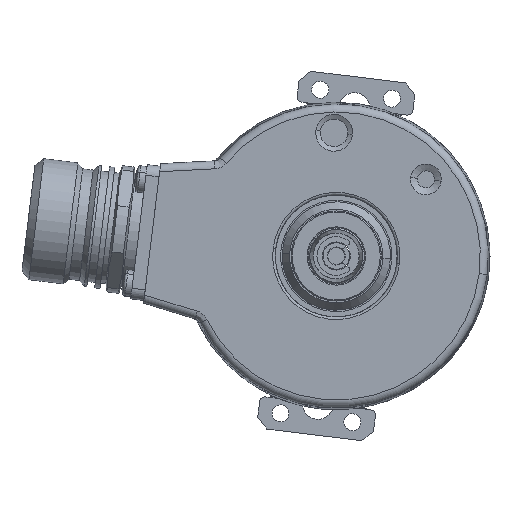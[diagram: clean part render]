
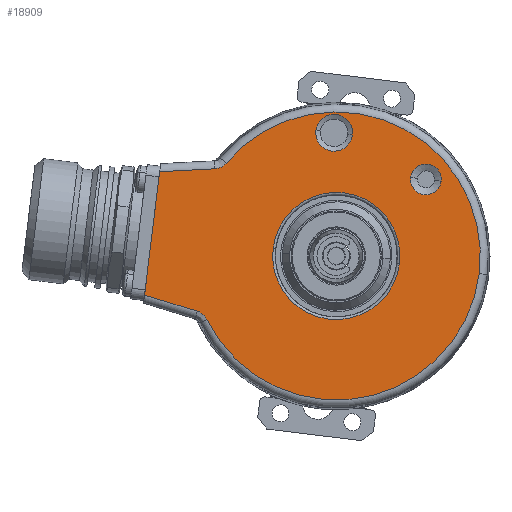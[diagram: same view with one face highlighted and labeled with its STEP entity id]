
A CAD part, left-side view. The second image highlights one B-rep face of the part: STEP entity #18909.
In plain terms, the highlighted planar face has unit normal (-1, 0, 0).
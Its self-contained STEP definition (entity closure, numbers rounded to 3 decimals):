
#3153 = VERTEX_POINT ( 'NONE', #7595 ) ;
#3154 = VERTEX_POINT ( 'NONE', #7594 ) ;
#7594 = CARTESIAN_POINT ( 'NONE',  ( -19., -26.97, -3.312 ) ) ;
#7595 = CARTESIAN_POINT ( 'NONE',  ( -19., 20.777, 17.512 ) ) ;
#9258 = VERTEX_POINT ( 'NONE', #10443 ) ;
#9409 = EDGE_CURVE ( 'NONE', #9258, #9414, #10442, .T. ) ;
#9414 = VERTEX_POINT ( 'NONE', #10437 ) ;
#9702 = EDGE_CURVE ( 'NONE', #3154, #3153, #10516, .T. ) ;
#10437 = CARTESIAN_POINT ( 'NONE',  ( -19., -19.796, 14.097 ) ) ;
#10438 = DIRECTION ( 'NONE',  ( 0., -0.993, -0.122 ) ) ;
#10439 = DIRECTION ( 'NONE',  ( 1., 0., 0. ) ) ;
#10440 = CARTESIAN_POINT ( 'NONE',  ( -19., -16.919, 14.45 ) ) ;
#10441 = AXIS2_PLACEMENT_3D ( 'NONE', #10440, #10439, #10438 ) ;
#10442 = CIRCLE ( 'NONE', #10441, 2.899 ) ;
#10443 = CARTESIAN_POINT ( 'NONE',  ( -19., -14.042, 14.804 ) ) ;
#10507 = DIRECTION ( 'NONE',  ( 0., -0.993, -0.122 ) ) ;
#10508 = DIRECTION ( 'NONE',  ( -1., 0., 0. ) ) ;
#10509 = CARTESIAN_POINT ( 'NONE',  ( -19., 0., 0. ) ) ;
#10511 = AXIS2_PLACEMENT_3D ( 'NONE', #10509, #10508, #10507 ) ;
#10516 = CIRCLE ( 'NONE', #10511, 27.173 ) ;
#11224 = CARTESIAN_POINT ( 'NONE',  ( -19., 11.911, 1.462 ) ) ;
#11241 = CARTESIAN_POINT ( 'NONE',  ( -19., 3.846, 23.669 ) ) ;
#11249 = DIRECTION ( 'NONE',  ( 0., -0.993, -0.122 ) ) ;
#11250 = DIRECTION ( 'NONE',  ( 1., 0., 0. ) ) ;
#11251 = CARTESIAN_POINT ( 'NONE',  ( -19., 0.406, 23.246 ) ) ;
#11252 = AXIS2_PLACEMENT_3D ( 'NONE', #11251, #11250, #11249 ) ;
#11253 = CIRCLE ( 'NONE', #11252, 3.466 ) ;
#11265 = CARTESIAN_POINT ( 'NONE',  ( -19., -3.034, 22.824 ) ) ;
#11327 = CARTESIAN_POINT ( 'NONE',  ( -19., -11.911, -1.462 ) ) ;
#11416 = DIRECTION ( 'NONE',  ( 0., -0.993, -0.122 ) ) ;
#11417 = DIRECTION ( 'NONE',  ( 1., 0., 0. ) ) ;
#11418 = CARTESIAN_POINT ( 'NONE',  ( -19., 0., 0. ) ) ;
#11419 = AXIS2_PLACEMENT_3D ( 'NONE', #11418, #11417, #11416 ) ;
#11424 = CIRCLE ( 'NONE', #11419, 12. ) ;
#12507 = CARTESIAN_POINT ( 'NONE',  ( -19., 36.168, -7.374 ) ) ;
#12552 = DIRECTION ( 'NONE',  ( 0., -0.122, 0.993 ) ) ;
#12553 = VECTOR ( 'NONE', #12552, 1000. ) ;
#12554 = CARTESIAN_POINT ( 'NONE',  ( -19., 36.354, -8.886 ) ) ;
#12555 = LINE ( 'NONE', #12554, #12553 ) ;
#12598 = CARTESIAN_POINT ( 'NONE',  ( -19., 20.777, 17.512 ) ) ;
#12599 = CARTESIAN_POINT ( 'NONE',  ( -19., 20.91, 17.355 ) ) ;
#12600 = CARTESIAN_POINT ( 'NONE',  ( -19., 21.056, 17.213 ) ) ;
#12601 = CARTESIAN_POINT ( 'NONE',  ( -19., 21.376, 16.962 ) ) ;
#12602 = CARTESIAN_POINT ( 'NONE',  ( -19., 21.552, 16.851 ) ) ;
#12603 = CARTESIAN_POINT ( 'NONE',  ( -19., 21.917, 16.669 ) ) ;
#12604 = CARTESIAN_POINT ( 'NONE',  ( -19., 22.108, 16.597 ) ) ;
#12605 = CARTESIAN_POINT ( 'NONE',  ( -19., 22.503, 16.493 ) ) ;
#12606 = CARTESIAN_POINT ( 'NONE',  ( -19., 22.708, 16.461 ) ) ;
#12607 = CARTESIAN_POINT ( 'NONE',  ( -19., 22.914, 16.45 ) ) ;
#12612 = B_SPLINE_CURVE_WITH_KNOTS ( 'NONE', 3,
 ( #12607, #12606, #12605, #12604, #12603, #12602, #12601, #12600, #12599, #12598 ),
 .UNSPECIFIED., .F., .F.,
 ( 4, 2, 2, 2, 4 ),
 ( 0., 0.001, 0.001, 0.002, 0.002 ),
 .UNSPECIFIED. ) ;
#12851 = DIRECTION ( 'NONE',  ( 0., -0.956, -0.292 ) ) ;
#12852 = VECTOR ( 'NONE', #12851, 1000. ) ;
#12853 = CARTESIAN_POINT ( 'NONE',  ( -19., 25.556, -10.618 ) ) ;
#12854 = LINE ( 'NONE', #12853, #12852 ) ;
#12856 = CARTESIAN_POINT ( 'NONE',  ( -19., 24.396, -11.966 ) ) ;
#12862 = CARTESIAN_POINT ( 'NONE',  ( -19., 26.213, -10.418 ) ) ;
#12873 = CARTESIAN_POINT ( 'NONE',  ( -19., 24.396, -11.966 ) ) ;
#12878 = B_SPLINE_CURVE_WITH_KNOTS ( 'NONE', 3,
 ( #12873, #13028, #13027, #13026, #13025, #13024, #13023, #13022, #13021, #13020 ),
 .UNSPECIFIED., .F., .F.,
 ( 4, 2, 2, 2, 4 ),
 ( 0., 0.001, 0.001, 0.002, 0.002 ),
 .UNSPECIFIED. ) ;
#13020 = CARTESIAN_POINT ( 'NONE',  ( -19., 26.213, -10.418 ) ) ;
#13021 = CARTESIAN_POINT ( 'NONE',  ( -19., 26.016, -10.478 ) ) ;
#13022 = CARTESIAN_POINT ( 'NONE',  ( -19., 25.828, -10.557 ) ) ;
#13023 = CARTESIAN_POINT ( 'NONE',  ( -19., 25.471, -10.753 ) ) ;
#13024 = CARTESIAN_POINT ( 'NONE',  ( -19., 25.3, -10.87 ) ) ;
#13025 = CARTESIAN_POINT ( 'NONE',  ( -19., 24.989, -11.135 ) ) ;
#13026 = CARTESIAN_POINT ( 'NONE',  ( -19., 24.848, -11.282 ) ) ;
#13027 = CARTESIAN_POINT ( 'NONE',  ( -19., 24.597, -11.605 ) ) ;
#13028 = CARTESIAN_POINT ( 'NONE',  ( -19., 24.487, -11.781 ) ) ;
#13132 = DIRECTION ( 'NONE',  ( 0., -0.993, -0.122 ) ) ;
#13133 = DIRECTION ( 'NONE',  ( -1., 0., 0. ) ) ;
#13134 = CARTESIAN_POINT ( 'NONE',  ( -19., 0., 0. ) ) ;
#13135 = AXIS2_PLACEMENT_3D ( 'NONE', #13134, #13133, #13132 ) ;
#13140 = CIRCLE ( 'NONE', #13135, 27.173 ) ;
#13390 = FACE_OUTER_BOUND ( 'NONE', #19058, .T. ) ;
#13391 = FACE_BOUND ( 'NONE', #18993, .T. ) ;
#13395 = FACE_BOUND ( 'NONE', #18914, .T. ) ;
#13398 = FACE_BOUND ( 'NONE', #18965, .T. ) ;
#13442 = DIRECTION ( 'NONE',  ( 0., -0.993, -0.122 ) ) ;
#13443 = DIRECTION ( 'NONE',  ( 1., 0., 0. ) ) ;
#13444 = CARTESIAN_POINT ( 'NONE',  ( -19., 0., 0. ) ) ;
#13445 = AXIS2_PLACEMENT_3D ( 'NONE', #13444, #13443, #13442 ) ;
#13447 = PLANE ( 'NONE',  #13445 ) ;
#13517 = DIRECTION ( 'NONE',  ( 0., -0.993, -0.122 ) ) ;
#13518 = DIRECTION ( 'NONE',  ( 1., 0., 0. ) ) ;
#13519 = CARTESIAN_POINT ( 'NONE',  ( -19., 0.406, 23.246 ) ) ;
#13520 = AXIS2_PLACEMENT_3D ( 'NONE', #13519, #13518, #13517 ) ;
#13521 = CIRCLE ( 'NONE', #13520, 3.466 ) ;
#13526 = DIRECTION ( 'NONE',  ( 0., -0.993, -0.122 ) ) ;
#13527 = DIRECTION ( 'NONE',  ( 1., 0., 0. ) ) ;
#13528 = CARTESIAN_POINT ( 'NONE',  ( -19., 0., 0. ) ) ;
#13529 = AXIS2_PLACEMENT_3D ( 'NONE', #13528, #13527, #13526 ) ;
#13530 = CIRCLE ( 'NONE', #13529, 12. ) ;
#13551 = DIRECTION ( 'NONE',  ( 0., -0.993, -0.122 ) ) ;
#13552 = DIRECTION ( 'NONE',  ( 1., 0., 0. ) ) ;
#13553 = CARTESIAN_POINT ( 'NONE',  ( -19., -16.919, 14.45 ) ) ;
#13554 = AXIS2_PLACEMENT_3D ( 'NONE', #13553, #13552, #13551 ) ;
#13559 = CIRCLE ( 'NONE', #13554, 2.899 ) ;
#16860 = VERTEX_POINT ( 'NONE', #11224 ) ;
#17486 = DIRECTION ( 'NONE',  ( 0., 0.999, -0.052 ) ) ;
#17487 = CARTESIAN_POINT ( 'NONE',  ( -19., 33.046, 15.919 ) ) ;
#17488 = LINE ( 'NONE', #17487, #17546 ) ;
#17545 = CARTESIAN_POINT ( 'NONE',  ( -19., 33.31, 15.905 ) ) ;
#17546 = VECTOR ( 'NONE', #17486, 1000. ) ;
#17567 = CARTESIAN_POINT ( 'NONE',  ( -19., 22.914, 16.45 ) ) ;
#18444 = VERTEX_POINT ( 'NONE', #11265 ) ;
#18454 = EDGE_CURVE ( 'NONE', #18460, #18444, #11253, .T. ) ;
#18460 = VERTEX_POINT ( 'NONE', #11241 ) ;
#18465 = VERTEX_POINT ( 'NONE', #11327 ) ;
#18484 = EDGE_CURVE ( 'NONE', #18465, #16860, #11424, .T. ) ;
#18799 = VERTEX_POINT ( 'NONE', #12507 ) ;
#18806 = EDGE_CURVE ( 'NONE', #18799, #26251, #12555, .T. ) ;
#18821 = EDGE_CURVE ( 'NONE', #26264, #3153, #12612, .T. ) ;
#18839 = VERTEX_POINT ( 'NONE', #12862 ) ;
#18842 = VERTEX_POINT ( 'NONE', #12856 ) ;
#18845 = EDGE_CURVE ( 'NONE', #18799, #18839, #12854, .T. ) ;
#18848 = EDGE_CURVE ( 'NONE', #18842, #18839, #12878, .T. ) ;
#18866 = EDGE_CURVE ( 'NONE', #18842, #3154, #13140, .T. ) ;
#18903 = ORIENTED_EDGE ( 'NONE', *, *, #18454, .T. ) ;
#18905 = ORIENTED_EDGE ( 'NONE', *, *, #18940, .T. ) ;
#18909 = ADVANCED_FACE ( 'NONE', ( #13395, #13398, #13391, #13390 ), #13447, .F. ) ;
#18911 = ORIENTED_EDGE ( 'NONE', *, *, #9409, .T. ) ;
#18914 = EDGE_LOOP ( 'NONE', ( #18911, #18963 ) ) ;
#18929 = EDGE_CURVE ( 'NONE', #16860, #18465, #13530, .T. ) ;
#18940 = EDGE_CURVE ( 'NONE', #18444, #18460, #13521, .T. ) ;
#18945 = EDGE_CURVE ( 'NONE', #9414, #9258, #13559, .T. ) ;
#18963 = ORIENTED_EDGE ( 'NONE', *, *, #18945, .T. ) ;
#18965 = EDGE_LOOP ( 'NONE', ( #18903, #18905 ) ) ;
#18981 = ORIENTED_EDGE ( 'NONE', *, *, #18929, .T. ) ;
#18993 = EDGE_LOOP ( 'NONE', ( #18994, #18981 ) ) ;
#18994 = ORIENTED_EDGE ( 'NONE', *, *, #18484, .T. ) ;
#19014 = ORIENTED_EDGE ( 'NONE', *, *, #18845, .T. ) ;
#19015 = ORIENTED_EDGE ( 'NONE', *, *, #18848, .F. ) ;
#19045 = ORIENTED_EDGE ( 'NONE', *, *, #18821, .F. ) ;
#19054 = ORIENTED_EDGE ( 'NONE', *, *, #26248, .T. ) ;
#19058 = EDGE_LOOP ( 'NONE', ( #19045, #19054, #19115, #19014, #19015, #19096, #19093 ) ) ;
#19093 = ORIENTED_EDGE ( 'NONE', *, *, #9702, .T. ) ;
#19096 = ORIENTED_EDGE ( 'NONE', *, *, #18866, .T. ) ;
#19115 = ORIENTED_EDGE ( 'NONE', *, *, #18806, .F. ) ;
#26248 = EDGE_CURVE ( 'NONE', #26264, #26251, #17488, .T. ) ;
#26251 = VERTEX_POINT ( 'NONE', #17545 ) ;
#26264 = VERTEX_POINT ( 'NONE', #17567 ) ;
